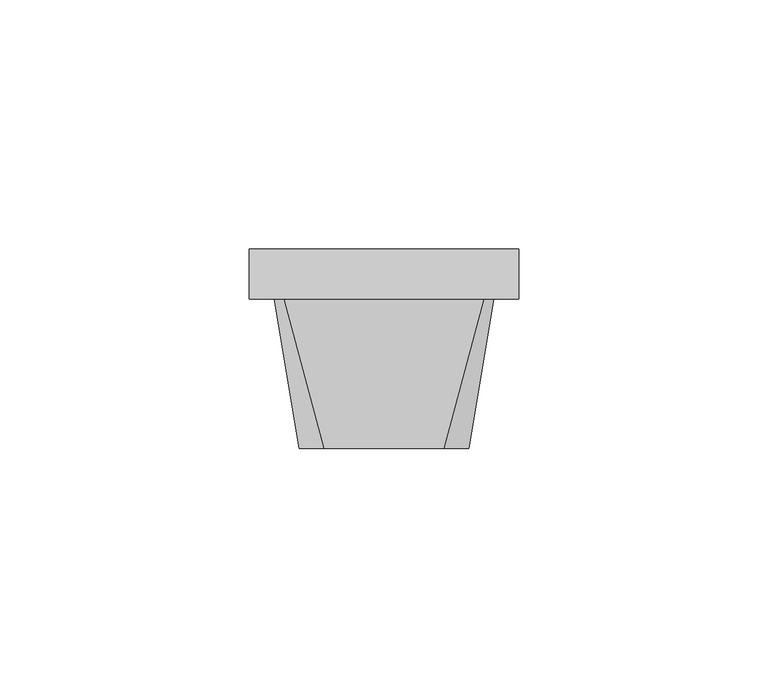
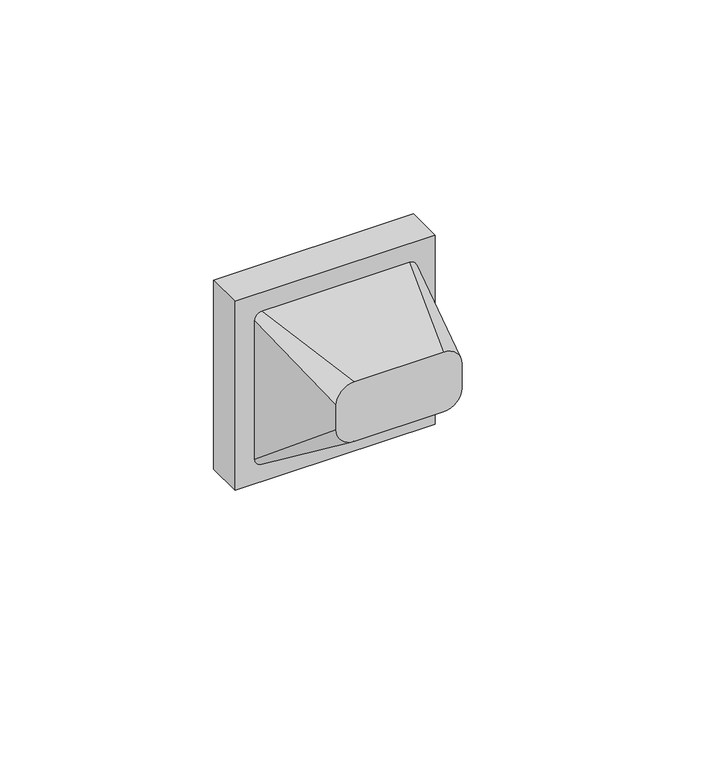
"""IFC4 building model written with IfcOpenShell, lengths in millimetres: proxy geometry, IEK_Brite_Механизм розетки информационной : RJ45 к5E_РК10-БрБ."""

from ifc_helpers import new_model, si_unit, frame, origin, place, context, project, spatial, circle_curve, faceted_brep, source, transform, mapped, element, save
from ifc_brep_helpers import plane_surface, spline_surface, advanced_brep


def electrical_fixtures_0dfebb09(model_context):
    return source(origin(), model_context, "Body", "SolidModel", [
        faceted_brep([(-27.0, 10.0, 27.0), (27.0, 10.0, 27.0), (27.0, 10.0, -27.0), (-27.0, 10.0, -27.0), (10.0, 10.0, -10.479217), (10.0, 10.0, 10.625), (7.9601761, 10.0, 10.625), (-7.9601761, 10.0, 10.625), (-10.0, 10.0, 10.625), (-10.0, 10.0, -10.479217), (-27.0, 0.0, 27.0), (-27.0, 0.0, -27.0), (27.0, 0.0, -27.0), (27.0, 0.0, 27.0), (6.0, 0.0, 2.9544923), (-6.0, 0.0, 2.9544923), (-6.0, 0.0, 10.4037367), (-2.0848789, 0.0, 10.4037367), (-2.0848789, 0.0, 12.1651658), (0.0, 0.0, 12.1651658), (2.0848789, 0.0, 12.1651658), (2.0848789, 0.0, 10.4037367), (6.0, 0.0, 10.4037367), (-6.0, 5.4252759, 0.9798533), (6.0, 5.4252759, 0.9798533), (6.0, 7.8194169, 7.5577017), (2.0848789, 7.8194169, 7.5577017), (2.0848789, 8.3855293, 9.1130827), (0.0, 8.3855293, 9.1130827), (-2.0848789, 8.3855293, 9.1130827), (-2.0848789, 7.8194169, 7.5577017), (-6.0, 7.8194169, 7.5577017), (10.0, 4.3684205, -4.8476375), (-10.0, 4.3684205, -4.8476375), (-7.9601761, 5.1767352, -2.626811), (7.9601761, 5.1767352, -2.626811), (7.9601761, 4.2370426, -2.2847909), (-7.9601761, 4.2370426, -2.2847909), (-7.9601761, 9.0603074, 10.9670201), (7.9601761, 9.0603074, 10.9670201)], [[[0, 1, 2, 3], [4, 5, 6, 7, 8, 9]], [[10, 11, 12, 13], [14, 15, 16, 17, 18, 19, 20, 21, 22]], [[0, 3, 11, 10]], [[3, 2, 12, 11]], [[2, 1, 13, 12]], [[1, 0, 10, 13]], [[23, 15, 14, 24]], [[24, 14, 22, 25]], [[25, 22, 21, 26]], [[20, 27, 26, 21]], [[27, 20, 19, 28]], [[28, 19, 18, 29]], [[29, 18, 17, 30]], [[30, 17, 16, 31]], [[15, 23, 31, 16]], [[32, 5, 4]], [[33, 9, 8]], [[32, 4, 9, 33]], [[5, 32, 33, 8, 7, 34, 35, 6]], [[36, 37, 38, 39], [23, 24, 25, 26, 27, 28, 29, 30, 31]], [[36, 39, 6, 35]], [[39, 38, 7, 6]], [[38, 37, 34, 7]], [[37, 36, 35, 34]]]),
        advanced_brep(
        [(-12.0, -30.0, 17.0), (-17.0, -30.0, 12.0), (-17.0, -30.0, 5.0), (-12.0, -30.0, 0.0), (12.0, -30.0, 0.0), (17.0, -30.0, 5.0), (17.0, -30.0, 12.0), (12.0, -30.0, 17.0), (-20.0, 0.0, 22.0), (20.0, 0.0, 22.0), (22.0, 0.0, 20.0), (22.0, 0.0, -20.0), (20.0, 0.0, -22.0), (-20.0, 0.0, -22.0), (-22.0, 0.0, -20.0), (-22.0, 0.0, 20.0)],
        [
            (0, 1, circle_curve(frame((-12.0, -30.0, 12.0), z_axis=(0.0, -1.0, 0.0), x_axis=(1.0, 0.0, 0.0)), 5.0)),
            (1, 2),
            (2, 3, circle_curve(frame((-12.0, -30.0, 5.0), z_axis=(0.0, -1.0, 0.0), x_axis=(1.0, 0.0, 0.0)), 5.0)),
            (3, 4),
            (4, 5, circle_curve(frame((12.0, -30.0, 5.0), z_axis=(0.0, -1.0, 0.0), x_axis=(1.0, 0.0, 0.0)), 5.0)),
            (5, 6),
            (6, 7, circle_curve(frame((12.0, -30.0, 12.0), z_axis=(0.0, -1.0, 0.0), x_axis=(1.0, 0.0, 0.0)), 5.0)),
            (7, 0),
            (8, 9),
            (9, 10, circle_curve(frame((20.0, 0.0, 20.0), z_axis=(0.0, 1.0, 0.0), x_axis=(1.0, 0.0, 0.0)), 2.0)),
            (10, 11),
            (11, 12, circle_curve(frame((20.0, 0.0, -20.0), z_axis=(0.0, 1.0, 0.0), x_axis=(1.0, 0.0, 0.0)), 2.0)),
            (12, 13),
            (13, 14, circle_curve(frame((-20.0, 0.0, -20.0), z_axis=(0.0, 1.0, 0.0), x_axis=(1.0, 0.0, 0.0)), 2.0)),
            (14, 15),
            (15, 8, circle_curve(frame((-20.0, 0.0, 20.0), z_axis=(0.0, 1.0, 0.0), x_axis=(1.0, 0.0, 0.0)), 2.0)),
            (8, 0),
            (7, 9),
            (6, 10),
            (5, 11),
            (4, 12),
            (3, 13),
            (2, 14),
            (1, 15),
        ],
        [
            plane_surface(frame((0.0, -30.0, 8.5), z_axis=(0.0, -1.0, 0.0), x_axis=(-1.0, 0.0, 0.0))),
            plane_surface(frame((0.0, 0.0, 0.0), z_axis=(0.0, 1.0, 0.0), x_axis=(-1.0, 0.0, 0.0))),
            plane_surface(frame((0.0, 0.0, 22.0), z_axis=(0.0, -0.16439898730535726, 0.9863939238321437), x_axis=(-1.0, 0.0, 0.0))),
            spline_surface(2, 1, [[(22.0, 0.0, 20.0), (17.0, -30.0, 12.0)], [(22.0, 0.0, 22.0), (17.0, -30.0, 17.0)], [(20.0, 0.0, 22.0), (12.0, -30.0, 17.0)]], [3, 3], [2, 2], [0.0, 1.0], [0.0, 1.0], weights=[[1.0, 1.0], [0.7071067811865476, 0.7071067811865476], [1.0, 1.0]]),
            plane_surface(frame((22.0, 0.0, 0.0), z_axis=(0.9863939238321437, -0.1643989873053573, 0.0), x_axis=(0.0, 0.0, 1.0))),
            spline_surface(2, 1, [[(20.0, 0.0, -22.0), (12.0, -30.0, 0.0)], [(22.0, 0.0, -22.0), (17.0, -30.0, 0.0)], [(22.0, 0.0, -20.0), (17.0, -30.0, 5.0)]], [3, 3], [2, 2], [0.0, 1.0], [0.0, 1.0], weights=[[1.0, 1.0], [0.7071067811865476, 0.7071067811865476], [1.0, 1.0]]),
            plane_surface(frame((0.0, 0.0, -22.0), z_axis=(0.0, -0.591363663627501, -0.8064049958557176), x_axis=(1.0, 0.0, 0.0))),
            spline_surface(2, 1, [[(-22.0, 0.0, -20.0), (-17.0, -30.0, 5.0)], [(-22.0, 0.0, -22.0), (-17.0, -30.0, 0.0)], [(-20.0, 0.0, -22.0), (-12.0, -30.0, 0.0)]], [3, 3], [2, 2], [0.0, 1.0], [0.0, 1.0], weights=[[1.0, 1.0], [0.7071067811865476, 0.7071067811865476], [1.0, 1.0]]),
            plane_surface(frame((-22.0, 0.0, 0.0), z_axis=(-0.9863939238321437, -0.1643989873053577, 0.0), x_axis=(0.0, 0.0, -1.0))),
            spline_surface(2, 1, [[(-20.0, 0.0, 22.0), (-12.0, -30.0, 17.0)], [(-22.0, 0.0, 22.0), (-17.0, -30.0, 17.0)], [(-22.0, 0.0, 20.0), (-17.0, -30.0, 12.0)]], [3, 3], [2, 2], [0.0, 1.0], [0.0, 1.0], weights=[[1.0, 1.0], [0.7071067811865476, 0.7071067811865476], [1.0, 1.0]]),
        ],
        [
            (0, [[1, 2, 3, 4, 5, 6, 7, 8]]),
            (1, [[9, 10, 11, 12, 13, 14, 15, 16]]),
            (2, [[-9, 17, -8, 18]]),
            (3, [[-10, -18, -7, 19]]),
            (4, [[-11, -19, -6, 20]]),
            (5, [[-12, -20, -5, 21]]),
            (6, [[-13, -21, -4, 22]]),
            (7, [[-14, -22, -3, 23]]),
            (8, [[-15, -23, -2, 24]]),
            (9, [[-16, -24, -1, -17]]),
        ],
    ),
    ])


if __name__ == "__main__":
    model = new_model("IFC4")
    model_context = context("Model", 3, world=origin())
    ifc_project = project(units=[si_unit("LENGTHUNIT", "METRE", prefix="MILLI")], contexts=[model_context])
    site = spatial("IfcSite", under=ifc_project)
    building = spatial("IfcBuilding", under=site)
    placement = place(None, origin())
    electrical_fixtures_shape = electrical_fixtures_0dfebb09(model_context)
    element("IfcBuildingElementProxy", 1, Name="IEK_Brite_Механизм розетки информационной : RJ45 к5E_РК10-БрБ", ObjectType="IEK_Brite_Механизм розетки информационной : RJ45 к5E_РК10-БрБ", at=placement, inside=building, context=model_context, shape_type="MappedRepresentation", body=[
        mapped(electrical_fixtures_shape, transform((0.0, 0.0, 0.0), x_axis=(1.0, 0.0, 0.0), y_axis=(0.0, 1.0, 0.0), z_axis=(0.0, 0.0, 1.0))),
    ])
    save(model, "model.ifc")
